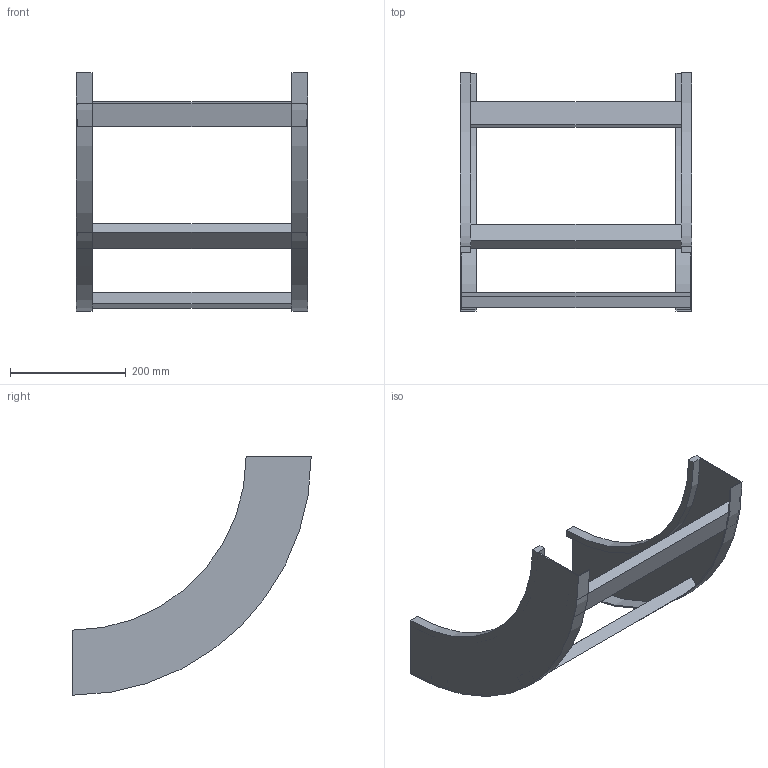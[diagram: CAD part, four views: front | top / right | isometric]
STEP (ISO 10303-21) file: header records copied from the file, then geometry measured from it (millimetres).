
FILE_DESCRIPTION (( 'STEP AP214' ), '1' );
FILE_NAME ('B2X30B3J400XX.step', '2025-03-20T10:22:46', ( '' ), ( '' ), 'SwSTEP 2.0', 'SolidWorks 2023', '' );
FILE_SCHEMA (( 'AUTOMOTIVE_DESIGN' ));
Length unit declared in the file: millimetre
Products named in the file (3): TRAVERSINO_400; B2_LONGH.SALITA_90°_H112.5_R300; B2X30B3J400XX
Assembly tree (5 placements, depth 2):
  B2X30B3J400XX
    B2_LONGH.SALITA_90°_H112.5_R300  x2
    TRAVERSINO_400  x3
Bounding box: 400 x 412.5 x 412.5 mm (x, y, z)
Volume: 1463311.4 mm3; surface area: 502171.8 mm2
Topology: 5 solids, 5 shells, 38 faces, 84 edges, 56 vertices
Faces by surface type: plane 30, cylinder 8
Entity records: 560 total; most frequent: DIRECTION 92, CARTESIAN_POINT 84, ORIENTED_EDGE 72, EDGE_CURVE 36, AXIS2_PLACEMENT_3D 32, VECTOR 28, LINE 28, VERTEX_POINT 24
